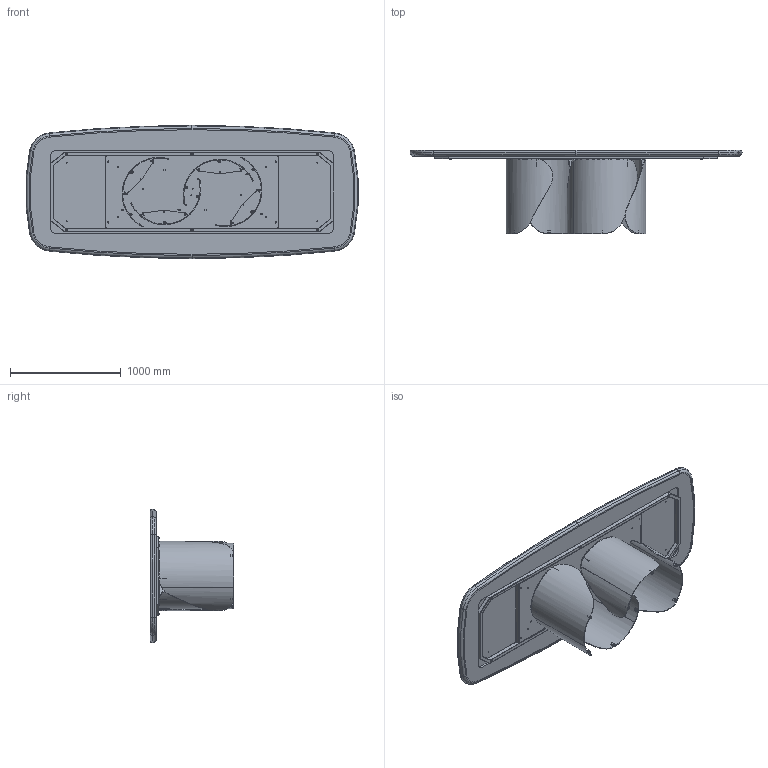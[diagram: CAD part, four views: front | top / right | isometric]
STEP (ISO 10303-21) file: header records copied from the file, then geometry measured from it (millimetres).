
FILE_DESCRIPTION (( 'STEP AP203' ), '1' );
FILE_NAME ('ON44K_Onda_300x120_King.STEP', '2024-08-01T08:58:37', ( '' ), ( '' ), 'SwSTEP 2.0', 'SolidWorks 2022', '' );
FILE_SCHEMA (( 'CONFIG_CONTROL_DESIGN' ));
Length unit declared in the file: millimetre
Products named in the file (16): OND000000-03-ONDA BASE GREZZA; ASSIEME PIANO+CERAMICA 300X120; COLLO TELAIO UNIVERSALE TTAV07 CON FERRAMENTA_MTG TOP LEGNO-MARMO-KING; PIEDINO PER ONDA; OND000000_03-00-LAMIERA CURVATA PRINCIPALE_OND00000X-00-ONDA BASE GREZZA PROTOTIPO; TTAV07-04-TELAIO X TAVOLI PLAI ONDA NOA 300; OND000000_02-00-CILINDRO DI FISSAGGIO Ø25X17 M8; OND000000_01-00-PIASTRA SUPERIORE BASE ONDA; TTAV07_01-04-STRUTTURA TAVOLI PLAI ONDA NOA 300; W51-01-PIANO KING BORDO 300X120 SAGOMATO LACCATO; K51-00-PIANO SOLO CERAMICA 297x116.7cm sag; COLLO BASE ONDA SINGOLA CON FERRAMENTA; rondella M8_8X24; TTAV07_02-01-VASSOIO TELAIO  PLAI ONDA NOA 300; M8xXXmm_M8x55mm; ON44K_Onda_300x120_King
Assembly tree (30 placements, depth 4):
  ON44K_Onda_300x120_King
    COLLO TELAIO UNIVERSALE TTAV07 CON FERRAMENTA_MTG TOP LEGNO-MARMO-KING
      TTAV07-04-TELAIO X TAVOLI PLAI ONDA NOA 300
        TTAV07_01-04-STRUTTURA TAVOLI PLAI ONDA NOA 300
        TTAV07_02-01-VASSOIO TELAIO  PLAI ONDA NOA 300
      rondella M8_8X24  x6
      M8xXXmm_M8x55mm  x6
    COLLO BASE ONDA SINGOLA CON FERRAMENTA  x4
      OND000000-03-ONDA BASE GREZZA
        OND000000_03-00-LAMIERA CURVATA PRINCIPALE_OND00000X-00-ONDA BASE GREZZA PROTOTIPO
        OND000000_01-00-PIASTRA SUPERIORE BASE ONDA
        OND000000_02-00-CILINDRO DI FISSAGGIO Ø25X17 M8  x2
      PIEDINO PER ONDA
    ASSIEME PIANO+CERAMICA 300X120
      W51-01-PIANO KING BORDO 300X120 SAGOMATO LACCATO
      K51-00-PIANO SOLO CERAMICA 297x116.7cm sag
Bounding box: 2991.72 x 752 x 1200 mm (x, y, z)
Volume: 163352525 mm3; surface area: 22253951.1 mm2
Topology: 48 solids, 48 shells, 1503 faces, 3570 edges, 2199 vertices
Faces by surface type: cylinder 613, plane 540, torus 154, cone 100, bspline 80, sphere 16
Entity records: 24942 total; most frequent: CARTESIAN_POINT 5506, DIRECTION 3818, ORIENTED_EDGE 3474, EDGE_CURVE 1737, AXIS2_PLACEMENT_3D 1471, VERTEX_POINT 1085, LINE 876, VECTOR 876
